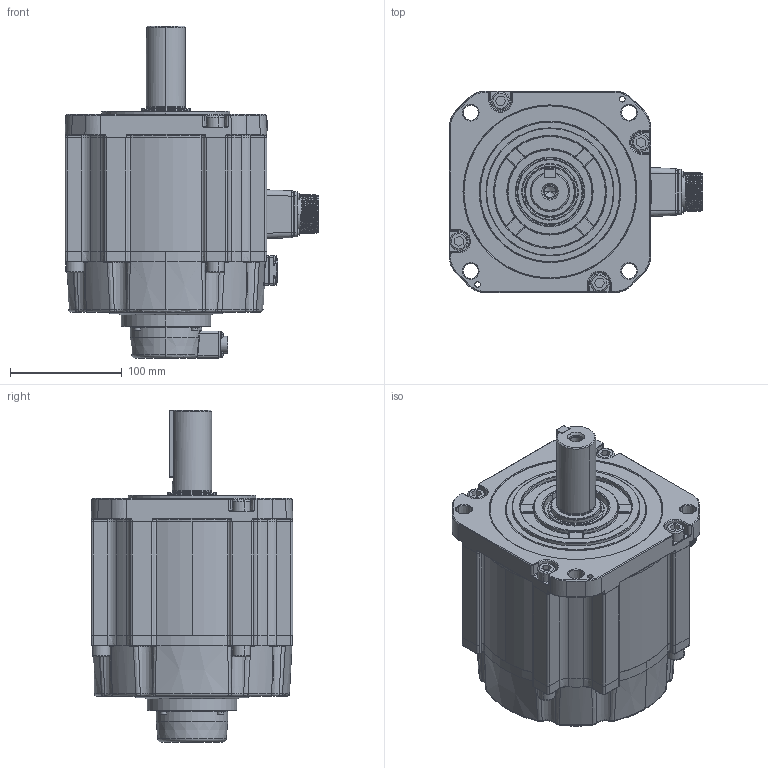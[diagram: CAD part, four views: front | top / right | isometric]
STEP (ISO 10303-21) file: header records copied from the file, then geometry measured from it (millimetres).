
FILE_DESCRIPTION (( 'STEP AP214' ), '1' );
FILE_NAME ('RSA1-M-180-2.9kw-B.STEP', '2024-08-12T09:24:13', ( '' ), ( '' ), 'SwSTEP 2.0', 'SolidWorks 2020', '' );
FILE_SCHEMA (( 'AUTOMOTIVE_DESIGN' ));
Length unit declared in the file: millimetre
Products named in the file (16): 180-惕掅綴傷裔; 180-M-2.9kw-儂褲; 内六角圆柱头螺钉_M10x30; ﾊｮﾗﾖｲﾛﾅﾌﾍｷﾗﾔｼｷﾂﾝｶ､_M3x8; 180-瑤脣釱; 180-惕掅雄薯脣釱; 130秶雄ん盄揤裔; 蚐猾_TC45x62x9; す瑩_B10x8x60; RSA1-M-180-2.9kw-B; 180-翋粣-35粣噤; 180-ヶ傷裔; 坋趼羞攫芛蹟隊_M3x30; 内六角圆柱头和平垫圈组合螺钉_M3x16; 4140000005_电机内部编码器线_7x26AWG(0.1m-CMV1-10芯螺纹插座_GACJ3045); 130梓袧綴裔
Assembly tree (35 placements, depth 2):
  RSA1-M-180-2.9kw-B
    180-M-2.9kw-儂褲
    180-ヶ傷裔
    180-瑤脣釱
    180-惕掅綴傷裔
    130梓袧綴裔
    4140000005_电机内部编码器线_7x26AWG(0.1m-CMV1-10芯螺纹插座_GACJ3045)
    180-惕掅雄薯脣釱
    180-翋粣-35粣噤
    す瑩_B10x8x60
    ﾊｮﾗﾖｲﾛﾅﾌﾍｷﾗﾔｼｷﾂﾝｶ､_M3x8  x4
    坋趼羞攫芛蹟隊_M3x30  x8
    内六角圆柱头螺钉_M10x30  x8
    内六角圆柱头和平垫圈组合螺钉_M3x16  x4
    130秶雄ん盄揤裔
    蚐猾_TC45x62x9
Bounding box: 226.5 x 180 x 296.5 mm (x, y, z)
Volume: 4775496.8 mm3; surface area: 442284.2 mm2
Topology: 40 solids, 41 shells, 3738 faces, 9379 edges, 5888 vertices
Faces by surface type: plane 1591, cylinder 863, bspline 543, cone 371, torus 316, sphere 54
Entity records: 119074 total; most frequent: CARTESIAN_POINT 42429, ORIENTED_EDGE 16310, DIRECTION 14831, EDGE_CURVE 8155, AXIS2_PLACEMENT_3D 5312, VERTEX_POINT 5139, VECTOR 4207, LINE 4207
